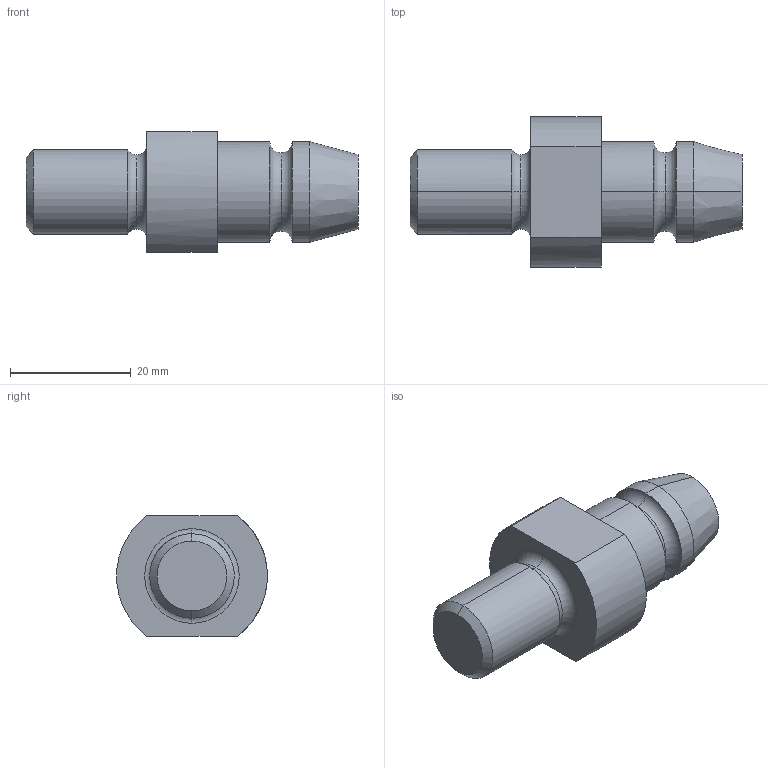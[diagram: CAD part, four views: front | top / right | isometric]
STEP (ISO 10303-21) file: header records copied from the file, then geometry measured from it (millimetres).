
FILE_DESCRIPTION(('CATIA V5 STEP Exchange'),'2;1');
FILE_NAME('C:\Users\Utente\Desktop\IO LAVORO\3D X SITO CF\X SITO\PLASTICA\AGS\AGS3401M14.stp','2021-02-21T19:13:13+00:00',('none'),('none'),'CATIA Version 5 Release 20 GA (IN-10)','CATIA V5 STEP AP203','none');
FILE_SCHEMA(('CONFIG_CONTROL_DESIGN'));
Length unit declared in the file: millimetre
Products named in the file (1): AGS3401M14
Bounding box: 55 x 24.93 x 20 mm (x, y, z)
Volume: 12539.2 mm3; surface area: 3773.4 mm2
Topology: 1 solids, 1 shells, 26 faces, 70 edges, 48 vertices
Faces by surface type: cylinder 8, torus 8, plane 6, cone 4
Entity records: 920 total; most frequent: CARTESIAN_POINT 235, ORIENTED_EDGE 140, DIRECTION 113, AXIS2_PLACEMENT_3D 70, EDGE_CURVE 70, VERTEX_POINT 48, CIRCLE 43, EDGE_LOOP 28
